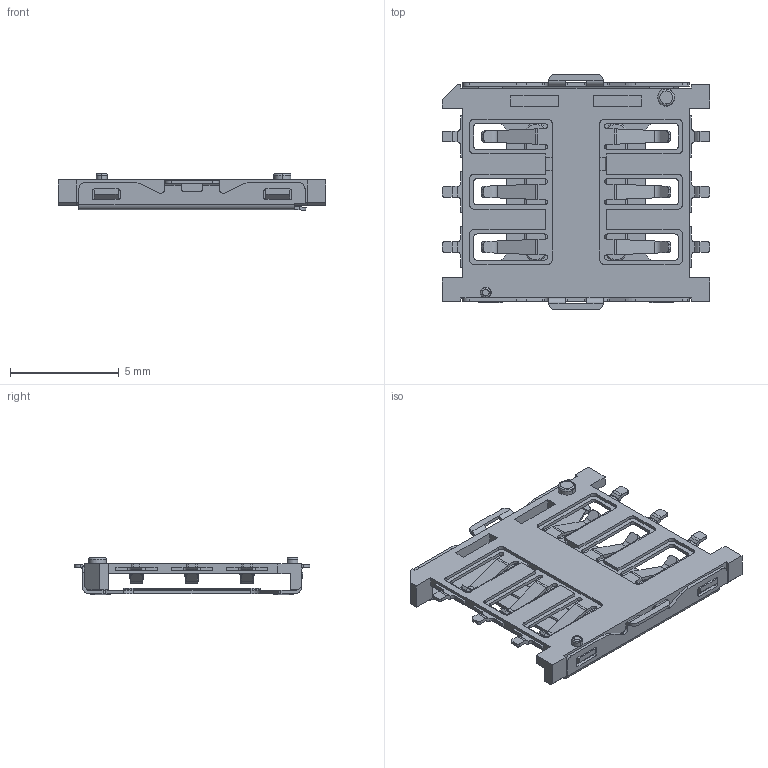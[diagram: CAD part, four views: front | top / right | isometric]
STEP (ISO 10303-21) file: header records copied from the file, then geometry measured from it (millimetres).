
FILE_DESCRIPTION((''),'2;1');
FILE_NAME('ADMI2A98BBE1B5JA','2022-10-24T',('Administrator'),(''),'PRO/ENGINEER BY PARAMETRIC TECHNOLOGY CORPORATION, 2009440','PRO/ENGINEER BY PARAMETRIC TECHNOLOGY CORPORATION, 2009440','');
FILE_SCHEMA(('CONFIG_CONTROL_DESIGN'));
Length unit declared in the file: millimetre
Products named in the file (1): ADMI2A98BBE1B5JA
Bounding box: 12.31 x 10.85 x 1.72 mm (x, y, z)
Volume: 55.6 mm3; surface area: 478.9 mm2
Topology: 1 solids, 1 shells, 638 faces, 1893 edges, 1268 vertices
Faces by surface type: plane 370, cylinder 252, torus 16
Entity records: 21742 total; most frequent: CARTESIAN_POINT 4237, ORIENTED_EDGE 3786, DIRECTION 3549, EDGE_CURVE 1893, VECTOR 1315, LINE 1315, VERTEX_POINT 1268, AXIS2_PLACEMENT_3D 1117
